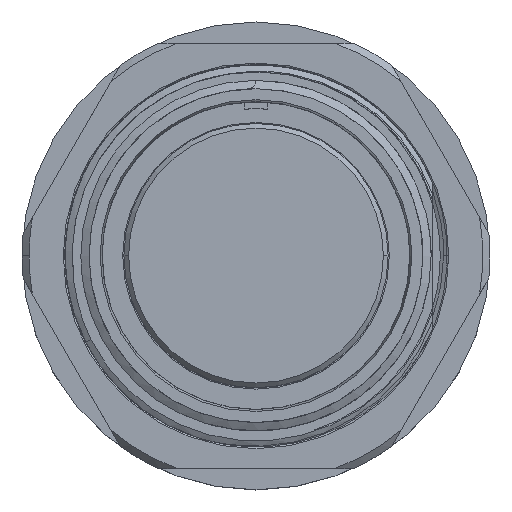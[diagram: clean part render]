
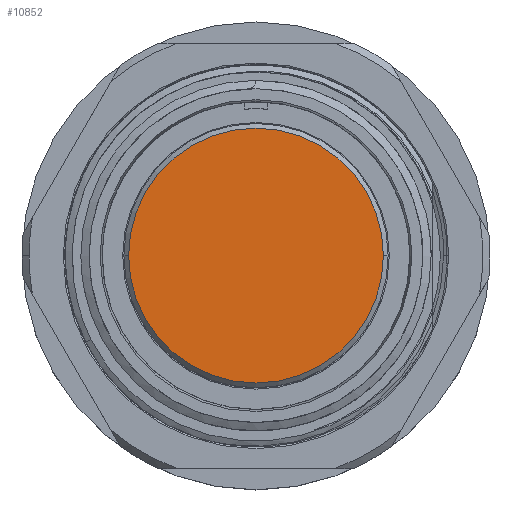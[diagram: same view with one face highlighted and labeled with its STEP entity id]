
A CAD part, top view. The second image highlights one B-rep face of the part: STEP entity #10852.
In plain terms, the highlighted planar face has unit normal (0, 0, 1).
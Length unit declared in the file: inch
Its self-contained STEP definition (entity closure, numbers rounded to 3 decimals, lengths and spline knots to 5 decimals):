
#731 = CIRCLE ( 'NONE', #10752, 0.542 ) ;
#1031 = CARTESIAN_POINT ( 'NONE',  ( 0., 0., -0.018 ) ) ;
#1223 = PLANE ( 'NONE',  #2154 ) ;
#1766 = EDGE_CURVE ( 'NONE', #11143, #14911, #4410, .T. ) ;
#2154 = AXIS2_PLACEMENT_3D ( 'NONE', #12050, #16080, #9367 ) ;
#2367 = FACE_OUTER_BOUND ( 'NONE', #7469, .T. ) ;
#4410 = CIRCLE ( 'NONE', #11243, 0.542 ) ;
#5134 = CARTESIAN_POINT ( 'NONE',  ( 0., 0., -0.018 ) ) ;
#5827 = EDGE_CURVE ( 'NONE', #14911, #11143, #731, .T. ) ;
#6359 = ORIENTED_EDGE ( 'NONE', *, *, #1766, .T. ) ;
#6362 = CARTESIAN_POINT ( 'NONE',  ( -0.542, 0., -0.018 ) ) ;
#6478 = DIRECTION ( 'NONE',  ( 0., 0., 1. ) ) ;
#7469 = EDGE_LOOP ( 'NONE', ( #6359, #10015 ) ) ;
#9083 = DIRECTION ( 'NONE',  ( 1., 0., 0. ) ) ;
#9253 = DIRECTION ( 'NONE',  ( 1., 0., 0. ) ) ;
#9367 = DIRECTION ( 'NONE',  ( 1., 0., 0. ) ) ;
#10015 = ORIENTED_EDGE ( 'NONE', *, *, #5827, .T. ) ;
#10752 = AXIS2_PLACEMENT_3D ( 'NONE', #1031, #6478, #9083 ) ;
#10852 = ADVANCED_FACE ( 'NONE', ( #2367 ), #1223, .T. ) ;
#11143 = VERTEX_POINT ( 'NONE', #6362 ) ;
#11243 = AXIS2_PLACEMENT_3D ( 'NONE', #5134, #15978, #9253 ) ;
#11443 = CARTESIAN_POINT ( 'NONE',  ( 0.542, 0., -0.018 ) ) ;
#12050 = CARTESIAN_POINT ( 'NONE',  ( 0., 0., -0.018 ) ) ;
#14911 = VERTEX_POINT ( 'NONE', #11443 ) ;
#15978 = DIRECTION ( 'NONE',  ( 0., 0., 1. ) ) ;
#16080 = DIRECTION ( 'NONE',  ( 0., 0., 1. ) ) ;
